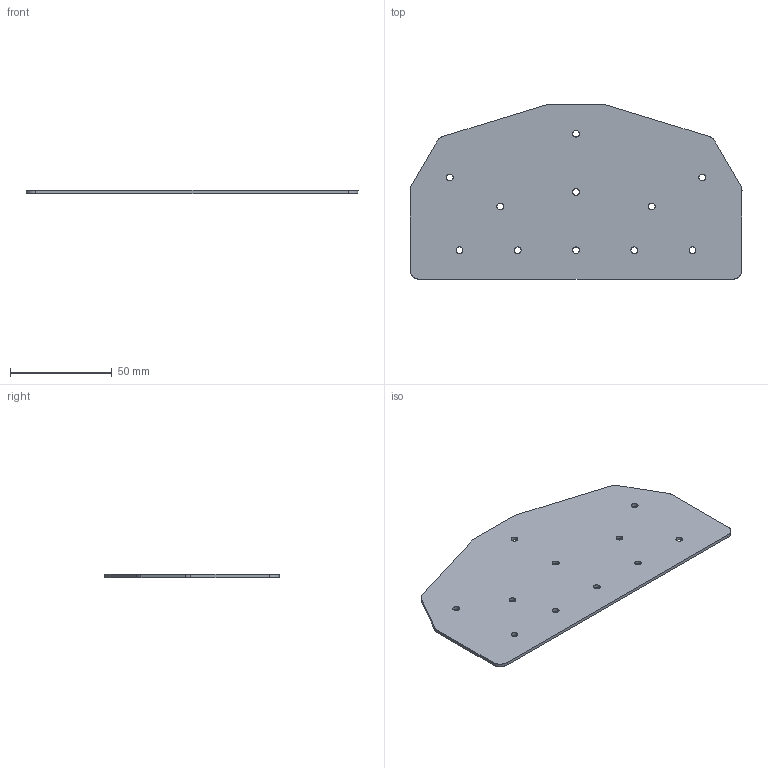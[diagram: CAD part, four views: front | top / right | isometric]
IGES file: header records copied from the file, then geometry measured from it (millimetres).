
Start section: SolidWorks IGES file using analytic representation for surfaces
Global section: file name: C:\Working\Gusset Convert\DRP-002-0014-01.igs; native system: SolidWorks 2010; preprocessor: SolidWorks 2010; author: mbush2; date: 100624.090504; units: inch
Bounding box: 162.77 x 85.72 x 1.52 mm (x, y, z)
Surface area: 25201.7 mm2 (no closed solid volume)
Topology: 0 solids, 0 shells, 40 faces, 936 edges, 936 vertices
Faces by surface type: revolution 30, bspline 10
